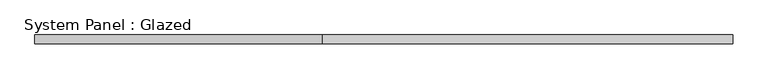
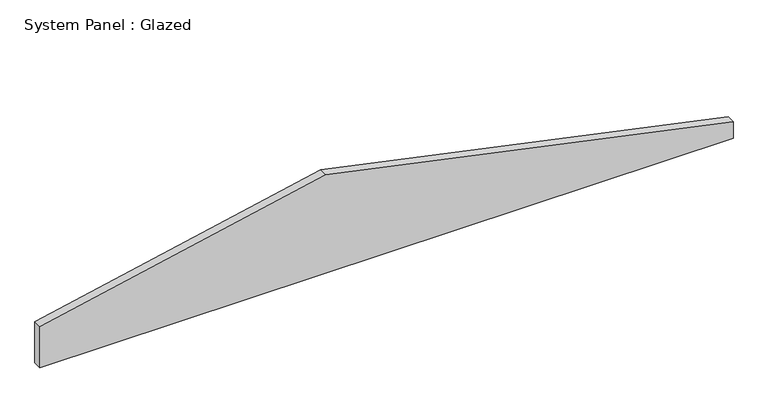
"""IFC4 building model written with IfcOpenShell, lengths in millimetres: plate geometry, System Panel : Glazed."""

from ifc_helpers import new_model, si_unit, frame, origin, place, context, project, spatial, polyline, outline, extrude, source, transform, mapped, element, save


def system_panel_glazed_e96e9fbf(model_context):
    return source(origin(), model_context, "Body", "SweptSolid", [
        extrude(outline(polyline([(0.0, -1000.0), (0.0, 1000.0), (50.2262467, 1000.0), (299.9802066, -175.0), (124.6210433, -1000.0), (0.0, -1000.0)])), frame((0.0, -49.5, 0.0), z_axis=(0.0, 1.0, 0.0), x_axis=(0.0, 0.0, 1.0)), (0.0, 0.0, 1.0), 25.0),
    ])


if __name__ == "__main__":
    model = new_model("IFC4")
    model_context = context("Model", 3, world=origin())
    ifc_project = project(units=[si_unit("LENGTHUNIT", "METRE", prefix="MILLI")], contexts=[model_context])
    site = spatial("IfcSite", under=ifc_project)
    building = spatial("IfcBuilding", under=site)
    placement = place(None, origin())
    system_panel_glazed_shape = system_panel_glazed_e96e9fbf(model_context)
    element("IfcPlate", 1, ObjectType="System Panel : Glazed", at=placement, inside=building, context=model_context, shape_type="MappedRepresentation", body=[
        mapped(system_panel_glazed_shape, transform((0.0, 0.0, 0.0), x_axis=(1.0, 0.0, 0.0), y_axis=(0.0, 1.0, 0.0), z_axis=(0.0, 0.0, 1.0))),
    ])
    save(model, "model.ifc")
